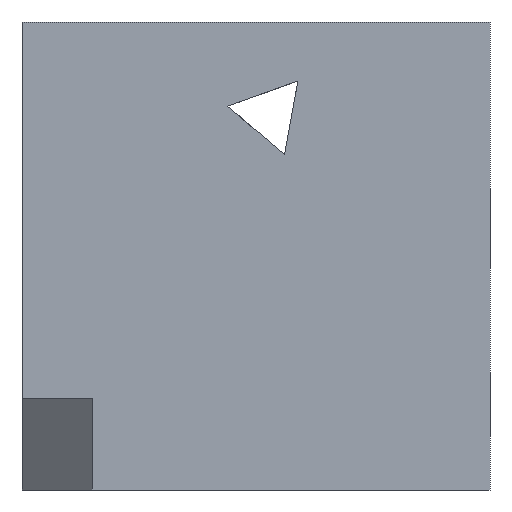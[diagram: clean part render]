
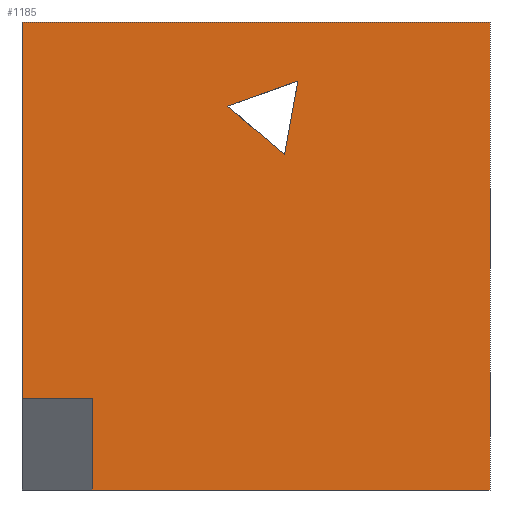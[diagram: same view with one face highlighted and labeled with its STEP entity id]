
A CAD part, left-side view. The second image highlights one B-rep face of the part: STEP entity #1185.
In plain terms, the highlighted planar face has unit normal (-1, 0, 0).
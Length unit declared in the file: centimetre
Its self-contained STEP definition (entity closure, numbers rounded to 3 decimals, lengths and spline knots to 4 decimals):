
#1 = EDGE_CURVE ( 'NONE', #765, #30, #692, .T. ) ;
#30 = VERTEX_POINT ( 'NONE', #1284 ) ;
#85 = ORIENTED_EDGE ( 'NONE', *, *, #325, .F. ) ;
#87 = CARTESIAN_POINT ( 'NONE',  ( 0., 849.4934, 196.3598 ) ) ;
#94 = CARTESIAN_POINT ( 'NONE',  ( 0., 849.4934, 0. ) ) ;
#119 = EDGE_CURVE ( 'NONE', #892, #1445, #1476, .T. ) ;
#142 = CARTESIAN_POINT ( 'NONE',  ( 0., 410.625, 873.9259 ) ) ;
#205 = ORIENTED_EDGE ( 'NONE', *, *, #551, .F. ) ;
#256 = ORIENTED_EDGE ( 'NONE', *, *, #1307, .F. ) ;
#324 = CARTESIAN_POINT ( 'NONE',  ( 0., 1000., 1000. ) ) ;
#325 = EDGE_CURVE ( 'NONE', #765, #967, #1199, .T. ) ;
#328 = VERTEX_POINT ( 'NONE', #948 ) ;
#355 = DIRECTION ( 'NONE',  ( 0., 1., 0. ) ) ;
#358 = DIRECTION ( 'NONE',  ( 0., 0., -1. ) ) ;
#376 = EDGE_CURVE ( 'NONE', #892, #328, #1094, .T. ) ;
#431 = DIRECTION ( 'NONE',  ( 0., -0.178, 0.984 ) ) ;
#445 = VECTOR ( 'NONE', #1168, 100. ) ;
#470 = CARTESIAN_POINT ( 'NONE',  ( 0., 560.8829, 820.0733 ) ) ;
#472 = VECTOR ( 'NONE', #1564, 100. ) ;
#550 = LINE ( 'NONE', #931, #1117 ) ;
#551 = EDGE_CURVE ( 'NONE', #748, #704, #753, .T. ) ;
#556 = DIRECTION ( 'NONE',  ( 0., 0., -1. ) ) ;
#626 = CARTESIAN_POINT ( 'NONE',  ( 0., 1000., 196.3598 ) ) ;
#651 = EDGE_CURVE ( 'NONE', #328, #30, #1161, .T. ) ;
#692 = LINE ( 'NONE', #1059, #472 ) ;
#704 = VERTEX_POINT ( 'NONE', #1565 ) ;
#708 = LINE ( 'NONE', #87, #837 ) ;
#748 = VERTEX_POINT ( 'NONE', #938 ) ;
#753 = LINE ( 'NONE', #142, #1328 ) ;
#756 = VECTOR ( 'NONE', #556, 100. ) ;
#757 = ORIENTED_EDGE ( 'NONE', *, *, #651, .F. ) ;
#765 = VERTEX_POINT ( 'NONE', #1186 ) ;
#803 = VECTOR ( 'NONE', #1101, 100. ) ;
#811 = FACE_BOUND ( 'NONE', #877, .T. ) ;
#831 = CARTESIAN_POINT ( 'NONE',  ( 0., 1000., 1000. ) ) ;
#837 = VECTOR ( 'NONE', #355, 100. ) ;
#865 = EDGE_CURVE ( 'NONE', #967, #1445, #708, .T. ) ;
#877 = EDGE_LOOP ( 'NONE', ( #1396, #256, #205 ) ) ;
#892 = VERTEX_POINT ( 'NONE', #831 ) ;
#895 = VERTEX_POINT ( 'NONE', #1076 ) ;
#925 = CARTESIAN_POINT ( 'NONE',  ( 0., 1000., 1000. ) ) ;
#931 = CARTESIAN_POINT ( 'NONE',  ( 0., 439.1162, 716.8724 ) ) ;
#938 = CARTESIAN_POINT ( 'NONE',  ( 0., 410.625, 873.9259 ) ) ;
#948 = CARTESIAN_POINT ( 'NONE',  ( 0., 0., 1000. ) ) ;
#967 = VERTEX_POINT ( 'NONE', #1261 ) ;
#999 = ORIENTED_EDGE ( 'NONE', *, *, #376, .F. ) ;
#1036 = PLANE ( 'NONE',  #1195 ) ;
#1047 = DIRECTION ( 'NONE',  ( 0., 0.941, -0.337 ) ) ;
#1059 = CARTESIAN_POINT ( 'NONE',  ( 0., 1000., 0. ) ) ;
#1076 = CARTESIAN_POINT ( 'NONE',  ( 0., 439.1162, 716.8724 ) ) ;
#1094 = LINE ( 'NONE', #324, #1139 ) ;
#1097 = ORIENTED_EDGE ( 'NONE', *, *, #1, .T. ) ;
#1101 = DIRECTION ( 'NONE',  ( 0., 0., 1. ) ) ;
#1112 = VECTOR ( 'NONE', #358, 100. ) ;
#1117 = VECTOR ( 'NONE', #431, 100. ) ;
#1139 = VECTOR ( 'NONE', #1450, 100. ) ;
#1161 = LINE ( 'NONE', #1170, #756 ) ;
#1168 = DIRECTION ( 'NONE',  ( 0., -0.763, -0.647 ) ) ;
#1170 = CARTESIAN_POINT ( 'NONE',  ( 0., 0., 1000. ) ) ;
#1185 = ADVANCED_FACE ( 'NONE', ( #811, #1537 ), #1036, .F. ) ;
#1186 = CARTESIAN_POINT ( 'NONE',  ( 0., 849.4934, 0. ) ) ;
#1195 = AXIS2_PLACEMENT_3D ( 'NONE', #925, #1417, #1434 ) ;
#1199 = LINE ( 'NONE', #94, #803 ) ;
#1228 = CARTESIAN_POINT ( 'NONE',  ( 0., 1000., 1000. ) ) ;
#1231 = EDGE_LOOP ( 'NONE', ( #1525, #1474, #85, #1097, #757, #999 ) ) ;
#1261 = CARTESIAN_POINT ( 'NONE',  ( 0., 849.4934, 196.3598 ) ) ;
#1284 = CARTESIAN_POINT ( 'NONE',  ( 0., 0., 0. ) ) ;
#1293 = EDGE_CURVE ( 'NONE', #895, #748, #550, .T. ) ;
#1307 = EDGE_CURVE ( 'NONE', #704, #895, #1545, .T. ) ;
#1328 = VECTOR ( 'NONE', #1047, 100. ) ;
#1396 = ORIENTED_EDGE ( 'NONE', *, *, #1293, .F. ) ;
#1417 = DIRECTION ( 'NONE',  ( 1., 0., 0. ) ) ;
#1434 = DIRECTION ( 'NONE',  ( 0., 0., -1. ) ) ;
#1445 = VERTEX_POINT ( 'NONE', #626 ) ;
#1450 = DIRECTION ( 'NONE',  ( 0., -1., 0. ) ) ;
#1474 = ORIENTED_EDGE ( 'NONE', *, *, #865, .F. ) ;
#1476 = LINE ( 'NONE', #1228, #1112 ) ;
#1525 = ORIENTED_EDGE ( 'NONE', *, *, #119, .T. ) ;
#1537 = FACE_OUTER_BOUND ( 'NONE', #1231, .T. ) ;
#1545 = LINE ( 'NONE', #470, #445 ) ;
#1564 = DIRECTION ( 'NONE',  ( 0., -1., 0. ) ) ;
#1565 = CARTESIAN_POINT ( 'NONE',  ( 0., 560.8829, 820.0733 ) ) ;
